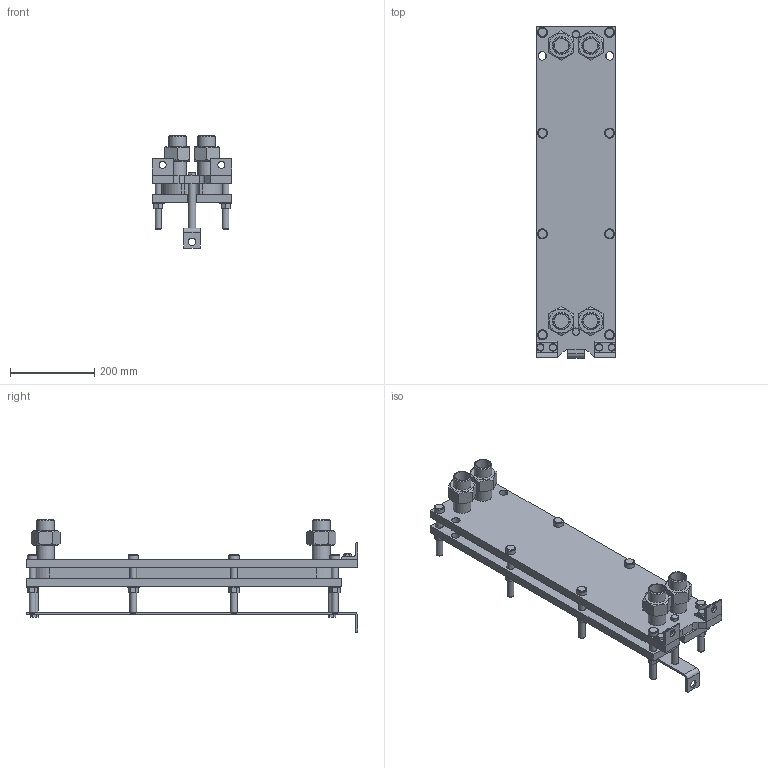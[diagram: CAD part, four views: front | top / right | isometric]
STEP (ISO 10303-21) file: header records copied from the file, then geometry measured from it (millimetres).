
FILE_DESCRIPTION(/* description */ (''),/* implementation_level */ '2;1');
FILE_NAME(/* name */ 'C:\Users\zhuro\Desktop\ENCO\TO\ЭН-008\ЭН-0,5-008-8-1.stp',/* time_stamp */ '2022-06-06T10:45:38+03:00',/* author */ ('zhuro'),/* organization */ (''),/* preprocessor_version */ 'ST-DEVELOPER v18.1',/* originating_system */ 'Autodesk Inventor 2022',/* authorisation */ '');
FILE_SCHEMA (('AUTOMOTIVE_DESIGN { 1 0 10303 214 3 1 1 }'));
Length unit declared in the file: millimetre
Products named in the file (1): ЭН-0,5-008-8-1
Bounding box: 190 x 790 x 267.4 mm (x, y, z)
Volume: 9111240.4 mm3; surface area: 1243312.4 mm2
Topology: 40 solids, 40 shells, 428 faces, 924 edges, 606 vertices
Faces by surface type: plane 273, cylinder 109, cone 40, torus 6
Full cylindrical faces by diameter (mm): 12 x6, 14 x2, 16 x20, 17 x8, 18 x19, 20 x5, 24 x8, 28 x8, 34.3 x8, 42.3 x8
Entity records: 15843 total; most frequent: CARTESIAN_POINT 5991, DIRECTION 1984, ORIENTED_EDGE 1848, EDGE_CURVE 924, AXIS2_PLACEMENT_3D 715, VERTEX_POINT 606, LINE 554, VECTOR 554
